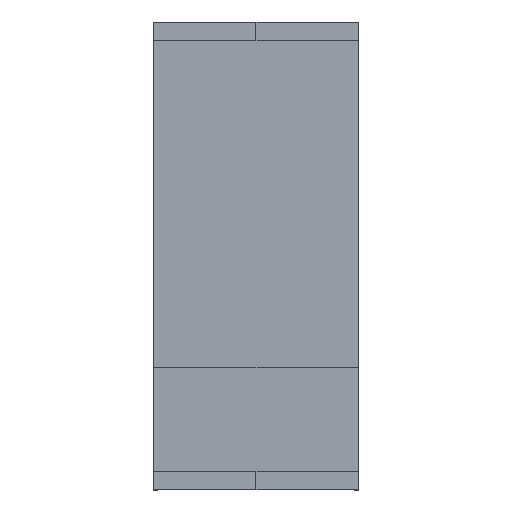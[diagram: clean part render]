
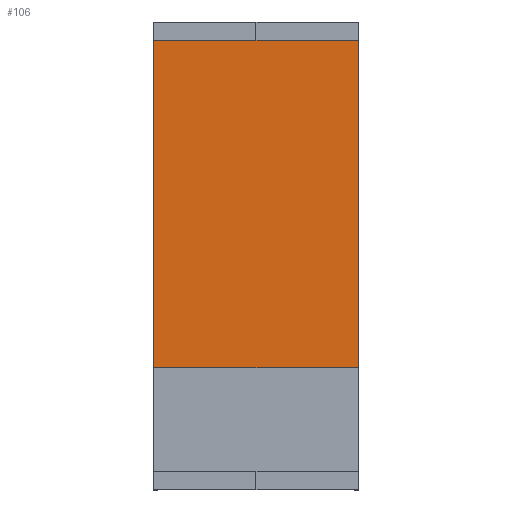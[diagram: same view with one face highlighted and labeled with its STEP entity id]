
A CAD part, top view. The second image highlights one B-rep face of the part: STEP entity #106.
In plain terms, the highlighted planar face has unit normal (0, 0, 1).
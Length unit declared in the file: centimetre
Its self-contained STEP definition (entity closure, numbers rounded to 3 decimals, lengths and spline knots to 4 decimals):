
#106=ADVANCED_FACE($,(#272),#2002,.T.);
#272=FACE_OUTER_BOUND($,#442,.T.);
#442=EDGE_LOOP($,(#822,#823,#824,#825));
#822=ORIENTED_EDGE($,*,*,#1445,.F.);
#823=ORIENTED_EDGE($,*,*,#1444,.F.);
#824=ORIENTED_EDGE($,*,*,#1443,.F.);
#825=ORIENTED_EDGE($,*,*,#1442,.F.);
#1442=EDGE_CURVE($,#1779,#1780,#2238,.T.);
#1443=EDGE_CURVE($,#1780,#1781,#2239,.T.);
#1444=EDGE_CURVE($,#1781,#1782,#2240,.T.);
#1445=EDGE_CURVE($,#1782,#1779,#2241,.T.);
#1779=VERTEX_POINT($,#3372);
#1780=VERTEX_POINT($,#3373);
#1781=VERTEX_POINT($,#3374);
#1782=VERTEX_POINT($,#3375);
#2002=PLANE($,#2636);
#2238=B_SPLINE_CURVE_WITH_KNOTS($,1,(#3346,#3347),.UNSPECIFIED.,.F.,.F.,
(2,2),(0.,126.),.UNSPECIFIED.);
#2239=B_SPLINE_CURVE_WITH_KNOTS($,1,(#3348,#3349),.UNSPECIFIED.,.F.,.F.,
(2,2),(0.,78.9),.UNSPECIFIED.);
#2240=B_SPLINE_CURVE_WITH_KNOTS($,1,(#3350,#3351),.UNSPECIFIED.,.F.,.F.,
(2,2),(0.,126.),.UNSPECIFIED.);
#2241=B_SPLINE_CURVE_WITH_KNOTS($,1,(#3352,#3353),.UNSPECIFIED.,.F.,.F.,
(2,2),(0.,78.9),.UNSPECIFIED.);
#2636=AXIS2_PLACEMENT_3D($,#3367,#2805,$);
#2805=DIRECTION($,(0.,0.,1.));
#3346=CARTESIAN_POINT($,(89.55,-243.,74.51));
#3347=CARTESIAN_POINT($,(89.55,-117.,74.51));
#3348=CARTESIAN_POINT($,(89.55,-117.,74.51));
#3349=CARTESIAN_POINT($,(168.45,-117.,74.51));
#3350=CARTESIAN_POINT($,(168.45,-117.,74.51));
#3351=CARTESIAN_POINT($,(168.45,-243.,74.51));
#3352=CARTESIAN_POINT($,(168.45,-243.,74.51));
#3353=CARTESIAN_POINT($,(89.55,-243.,74.51));
#3367=CARTESIAN_POINT($,(89.55,-243.,74.51));
#3372=CARTESIAN_POINT($,(89.55,-243.,74.51));
#3373=CARTESIAN_POINT($,(89.55,-117.,74.51));
#3374=CARTESIAN_POINT($,(168.45,-117.,74.51));
#3375=CARTESIAN_POINT($,(168.45,-243.,74.51));
